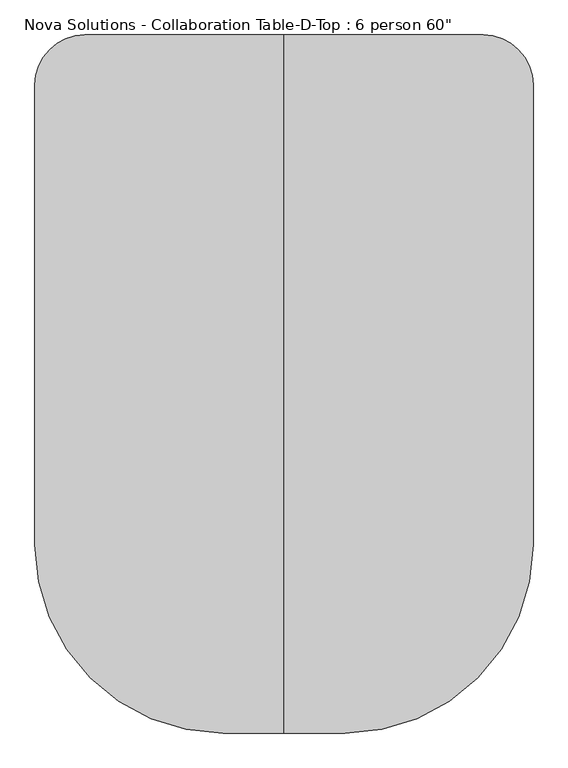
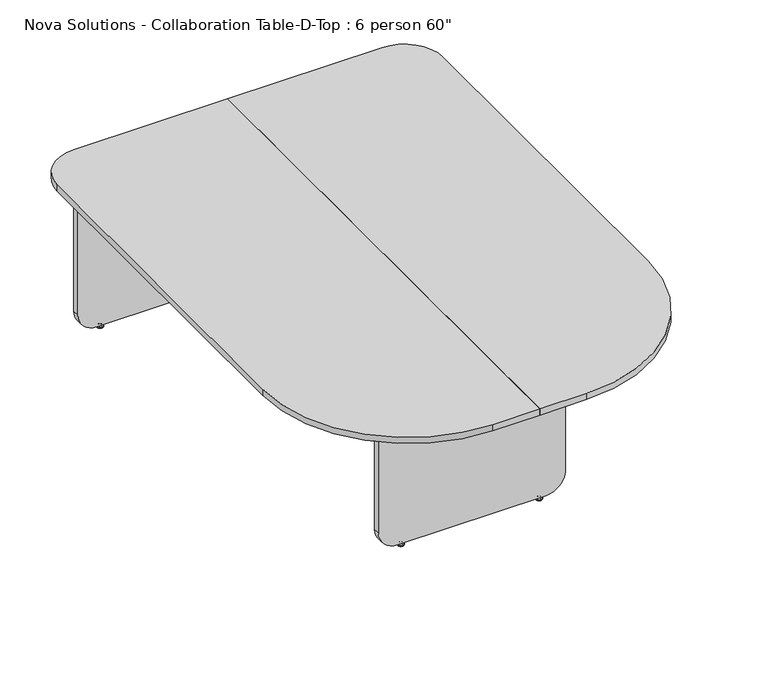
"""IFC4 building model written with IfcOpenShell, lengths in millimetres: furniture geometry."""

from ifc_helpers import new_model, si_unit, point, frame, frame_2d, origin, place, context, project, spatial, polyline, circle_curve, ellipse_curve, trimmed, segment, composite_curve, outline, extrude, source, transform, mapped, element, save
from ifc_brep_helpers import plane_surface, cylinder_surface, revolved_surface, advanced_brep


def furniture_2c49330a(model_context):
    return source(origin(), model_context, "Body", "SolidModel", [
        extrude(outline(polyline([(-136.57, 1038.2), (-136.57, -576.1), (-152.77, -576.1), (-152.77, 1038.2), (-136.57, 1038.2)])), frame((0.0, 0.0, 181.85), z_axis=(0.0, 0.0, 1.0), x_axis=(1.0, 0.0, 0.0)), (0.0, 0.0, 1.0), 553.0),
        extrude(outline(polyline([(136.57, 1038.2), (152.77, 1038.2), (152.77, -576.1), (136.57, -576.1), (136.57, 1038.2)])), frame((0.0, 0.0, 181.85), z_axis=(0.0, 0.0, 1.0), x_axis=(1.0, 0.0, 0.0)), (0.0, 0.0, 1.0), 553.0),
        advanced_brep(
        [(513.4578125, 1057.7276506, 11.1125), (513.4578125, 1044.3723494, 11.1125), (513.4578125, 1051.05, 11.1125), (513.4578125, 1057.7276506, 9.525), (513.4578125, 1044.3723494, 9.525), (513.4578125, 1062.9355135, 4.7748687), (513.4578125, 1039.1644865, 4.7748687), (513.4578125, 1063.7966506, 3.989419), (513.4578125, 1038.3033494, 3.989419), (513.4578125, 1063.7966506, 3.175), (513.4578125, 1038.3033494, 3.175), (513.4578125, 1062.9459119, 0.0), (513.4578125, 1039.1540881, 0.0), (513.4578125, 1051.05, 0.0)],
        [
            (0, 1, circle_curve(frame((513.4578125, 1051.05, 11.1125), z_axis=(0.0, 0.0, 1.0), x_axis=(0.0, -1.0, 0.0)), 6.6776506)),
            (1, 2),
            (2, 0),
            (1, 0, circle_curve(frame((513.4578125, 1051.05, 11.1125), z_axis=(0.0, 0.0, 1.0), x_axis=(0.0, -1.0, 0.0)), 6.6776506)),
            (3, 4, circle_curve(frame((513.4578125, 1051.05, 9.525), z_axis=(0.0, 0.0, 1.0), x_axis=(0.0, -1.0, 0.0)), 6.6776506)),
            (4, 1),
            (0, 3),
            (4, 3, circle_curve(frame((513.4578125, 1051.05, 9.525), z_axis=(0.0, 0.0, 1.0), x_axis=(0.0, -1.0, 0.0)), 6.6776506)),
            (5, 6, circle_curve(frame((513.4578125, 1051.05, 4.7748687), z_axis=(0.0, 0.0, 1.0), x_axis=(0.0, -1.0, 0.0)), 11.8855135)),
            (6, 4, circle_curve(frame((513.4578125, 1038.1179373, 11.1521822), z_axis=(1.0, 0.0, 0.0), x_axis=(0.0, 1.0, 0.0)), 6.462615)),
            (3, 5, circle_curve(frame((513.4578125, 1063.9820627, 11.1521822), z_axis=(1.0, 0.0, 0.0), x_axis=(0.0, -1.0, 0.0)), 6.462615)),
            (6, 5, circle_curve(frame((513.4578125, 1051.05, 4.7748687), z_axis=(0.0, 0.0, 1.0), x_axis=(0.0, -1.0, 0.0)), 11.8855135)),
            (7, 8, circle_curve(frame((513.4578125, 1051.05, 3.989419), z_axis=(0.0, 0.0, 1.0), x_axis=(0.0, -1.0, 0.0)), 12.7466506)),
            (8, 6, circle_curve(frame((513.4578125, 1039.3375368, 3.7203591), z_axis=(-1.0, 0.0, 0.0), x_axis=(0.0, 1.0, 0.0)), 1.0686145)),
            (5, 7, circle_curve(frame((513.4578125, 1062.7624632, 3.7203591), z_axis=(-1.0, 0.0, 0.0), x_axis=(0.0, -1.0, 0.0)), 1.0686145)),
            (8, 7, circle_curve(frame((513.4578125, 1051.05, 3.989419), z_axis=(0.0, 0.0, 1.0), x_axis=(0.0, -1.0, 0.0)), 12.7466506)),
            (9, 10, circle_curve(frame((513.4578125, 1051.05, 3.175), z_axis=(0.0, 0.0, 1.0), x_axis=(0.0, -1.0, 0.0)), 12.7466506)),
            (10, 8),
            (7, 9),
            (10, 9, circle_curve(frame((513.4578125, 1051.05, 3.175), z_axis=(0.0, 0.0, 1.0), x_axis=(0.0, -1.0, 0.0)), 12.7466506)),
            (11, 12, circle_curve(frame((513.4578125, 1051.05, 0.0), z_axis=(0.0, 0.0, 1.0), x_axis=(0.0, -1.0, 0.0)), 11.8959119)),
            (12, 10),
            (9, 11),
            (12, 11, circle_curve(frame((513.4578125, 1051.05, 0.0), z_axis=(0.0, 0.0, 1.0), x_axis=(0.0, -1.0, 0.0)), 11.8959119)),
            (13, 12),
            (11, 13),
        ],
        [
            plane_surface(frame((513.4578125, 1051.05, 11.1125), z_axis=(0.0, 0.0, 1.0), x_axis=(0.0, -1.0, 0.0))),
            cylinder_surface(frame((513.4578125, 1051.05, 43.2095994), z_axis=(0.0, 0.0, -1.0), x_axis=(0.0, -1.0, 0.0)), 6.6776506),
            revolved_surface(trimmed(ellipse_curve(frame((513.4578125, 1038.1179373, 11.1521822), z_axis=(-1.0, 0.0, 0.0), x_axis=(0.0, 1.0, 0.0)), 6.462615, 6.462615), [point((513.4578125, 1044.3723494, 9.525))], [point((513.4578125, 1039.1644865, 4.7748687))], True, "CARTESIAN"), (513.4578125, 1051.05, 43.2095994), (0.0, 0.0, -1.0)),
            revolved_surface(trimmed(ellipse_curve(frame((513.4578125, 1039.3375368, 3.7203591), z_axis=(1.0, 0.0, 0.0), x_axis=(0.0, 1.0, 0.0)), 1.0686145, 1.0686145), [point((513.4578125, 1039.1644865, 4.7748687))], [point((513.4578125, 1038.3033494, 3.989419))], True, "CARTESIAN"), (513.4578125, 1051.05, 43.2095994), (0.0, 0.0, -1.0)),
            cylinder_surface(frame((513.4578125, 1051.05, 43.2095994), z_axis=(0.0, 0.0, -1.0), x_axis=(0.0, -1.0, 0.0)), 12.7466506),
            revolved_surface(polyline([(513.4578125, 1038.3033494, 3.175), (513.4578125, 1039.1540881, 0.0)]), (513.4578125, 1051.05, 43.2095994), (0.0, 0.0, -1.0)),
            plane_surface(frame((513.4578125, 1051.05, 0.0), z_axis=(0.0, 0.0, -1.0), x_axis=(0.0, -1.0, 0.0))),
        ],
        [
            (0, [[1, 2, 3]]),
            (0, [[4, -3, -2]]),
            (1, [[5, 6, -1, 7]]),
            (1, [[8, -7, -4, -6]]),
            (2, [[9, 10, -5, 11]]),
            (2, [[12, -11, -8, -10]]),
            (3, [[13, 14, -9, 15]]),
            (3, [[16, -15, -12, -14]]),
            (4, [[17, 18, -13, 19]]),
            (4, [[20, -19, -16, -18]]),
            (5, [[21, 22, -17, 23]]),
            (5, [[24, -23, -20, -22]]),
            (6, [[25, -21, 26]]),
            (6, [[-26, -24, -25]]),
        ],
    ),
        advanced_brep(
        [(-513.4578125, 1057.7276506, 11.1125), (-513.4578125, 1044.3723494, 11.1125), (-513.4578125, 1051.05, 11.1125), (-513.4578125, 1057.7276506, 9.525), (-513.4578125, 1044.3723494, 9.525), (-513.4578125, 1062.9355135, 4.7748687), (-513.4578125, 1039.1644865, 4.7748687), (-513.4578125, 1063.7966506, 3.989419), (-513.4578125, 1038.3033494, 3.989419), (-513.4578125, 1063.7966506, 3.175), (-513.4578125, 1038.3033494, 3.175), (-513.4578125, 1062.9459119, 0.0), (-513.4578125, 1039.1540881, 0.0), (-513.4578125, 1051.05, 0.0)],
        [
            (0, 1, circle_curve(frame((-513.4578125, 1051.05, 11.1125), z_axis=(0.0, 0.0, 1.0), x_axis=(0.0, -1.0, 0.0)), 6.6776506)),
            (1, 2),
            (2, 0),
            (1, 0, circle_curve(frame((-513.4578125, 1051.05, 11.1125), z_axis=(0.0, 0.0, 1.0), x_axis=(0.0, -1.0, 0.0)), 6.6776506)),
            (3, 4, circle_curve(frame((-513.4578125, 1051.05, 9.525), z_axis=(0.0, 0.0, 1.0), x_axis=(0.0, -1.0, 0.0)), 6.6776506)),
            (4, 1),
            (0, 3),
            (4, 3, circle_curve(frame((-513.4578125, 1051.05, 9.525), z_axis=(0.0, 0.0, 1.0), x_axis=(0.0, -1.0, 0.0)), 6.6776506)),
            (5, 6, circle_curve(frame((-513.4578125, 1051.05, 4.7748687), z_axis=(0.0, 0.0, 1.0), x_axis=(0.0, -1.0, 0.0)), 11.8855135)),
            (6, 4, circle_curve(frame((-513.4578125, 1038.1179373, 11.1521822), z_axis=(1.0, 0.0, 0.0), x_axis=(0.0, 1.0, 0.0)), 6.462615)),
            (3, 5, circle_curve(frame((-513.4578125, 1063.9820627, 11.1521822), z_axis=(1.0, 0.0, 0.0), x_axis=(0.0, -1.0, 0.0)), 6.462615)),
            (6, 5, circle_curve(frame((-513.4578125, 1051.05, 4.7748687), z_axis=(0.0, 0.0, 1.0), x_axis=(0.0, -1.0, 0.0)), 11.8855135)),
            (7, 8, circle_curve(frame((-513.4578125, 1051.05, 3.989419), z_axis=(0.0, 0.0, 1.0), x_axis=(0.0, -1.0, 0.0)), 12.7466506)),
            (8, 6, circle_curve(frame((-513.4578125, 1039.3375368, 3.7203591), z_axis=(-1.0, 0.0, 0.0), x_axis=(0.0, 1.0, 0.0)), 1.0686145)),
            (5, 7, circle_curve(frame((-513.4578125, 1062.7624632, 3.7203591), z_axis=(-1.0, 0.0, 0.0), x_axis=(0.0, -1.0, 0.0)), 1.0686145)),
            (8, 7, circle_curve(frame((-513.4578125, 1051.05, 3.989419), z_axis=(0.0, 0.0, 1.0), x_axis=(0.0, -1.0, 0.0)), 12.7466506)),
            (9, 10, circle_curve(frame((-513.4578125, 1051.05, 3.175), z_axis=(0.0, 0.0, 1.0), x_axis=(0.0, -1.0, 0.0)), 12.7466506)),
            (10, 8),
            (7, 9),
            (10, 9, circle_curve(frame((-513.4578125, 1051.05, 3.175), z_axis=(0.0, 0.0, 1.0), x_axis=(0.0, -1.0, 0.0)), 12.7466506)),
            (11, 12, circle_curve(frame((-513.4578125, 1051.05, 0.0), z_axis=(0.0, 0.0, 1.0), x_axis=(0.0, -1.0, 0.0)), 11.8959119)),
            (12, 10),
            (9, 11),
            (12, 11, circle_curve(frame((-513.4578125, 1051.05, 0.0), z_axis=(0.0, 0.0, 1.0), x_axis=(0.0, -1.0, 0.0)), 11.8959119)),
            (13, 12),
            (11, 13),
        ],
        [
            plane_surface(frame((-513.4578125, 1051.05, 11.1125), z_axis=(0.0, 0.0, 1.0), x_axis=(0.0, -1.0, 0.0))),
            cylinder_surface(frame((-513.4578125, 1051.05, 43.2095994), z_axis=(0.0, 0.0, -1.0), x_axis=(0.0, -1.0, 0.0)), 6.6776506),
            revolved_surface(trimmed(ellipse_curve(frame((-513.4578125, 1038.1179373, 11.1521822), z_axis=(-1.0, 0.0, 0.0), x_axis=(0.0, 1.0, 0.0)), 6.462615, 6.462615), [point((-513.4578125, 1044.3723494, 9.525))], [point((-513.4578125, 1039.1644865, 4.7748687))], True, "CARTESIAN"), (-513.4578125, 1051.05, 43.2095994), (0.0, 0.0, -1.0)),
            revolved_surface(trimmed(ellipse_curve(frame((-513.4578125, 1039.3375368, 3.7203591), z_axis=(1.0, 0.0, 0.0), x_axis=(0.0, 1.0, 0.0)), 1.0686145, 1.0686145), [point((-513.4578125, 1039.1644865, 4.7748687))], [point((-513.4578125, 1038.3033494, 3.989419))], True, "CARTESIAN"), (-513.4578125, 1051.05, 43.2095994), (0.0, 0.0, -1.0)),
            cylinder_surface(frame((-513.4578125, 1051.05, 43.2095994), z_axis=(0.0, 0.0, -1.0), x_axis=(0.0, -1.0, 0.0)), 12.7466506),
            revolved_surface(polyline([(-513.4578125, 1038.3033494, 3.175), (-513.4578125, 1039.1540881, 0.0)]), (-513.4578125, 1051.05, 43.2095994), (0.0, 0.0, -1.0)),
            plane_surface(frame((-513.4578125, 1051.05, 0.0), z_axis=(0.0, 0.0, -1.0), x_axis=(0.0, -1.0, 0.0))),
        ],
        [
            (0, [[1, 2, 3]]),
            (0, [[4, -3, -2]]),
            (1, [[5, 6, -1, 7]]),
            (1, [[8, -7, -4, -6]]),
            (2, [[9, 10, -5, 11]]),
            (2, [[12, -11, -8, -10]]),
            (3, [[13, 14, -9, 15]]),
            (3, [[16, -15, -12, -14]]),
            (4, [[17, 18, -13, 19]]),
            (4, [[20, -19, -16, -18]]),
            (5, [[21, 22, -17, 23]]),
            (5, [[24, -23, -20, -22]]),
            (6, [[25, -21, 26]]),
            (6, [[-26, -24, -25]]),
        ],
    ),
        extrude(outline(composite_curve([segment(polyline([(734.85, 609.5), (734.85, -609.5), (90.15, -609.5)]), True, "CONTINUOUS"), segment(trimmed(circle_curve(frame_2d((90.15, -533.5)), 76.0), [point((90.15, -609.5))], [point((14.15, -533.5))], False, "CARTESIAN"), True, "CONTINUOUS"), segment(polyline([(14.15, -533.5), (14.15, 533.5)]), True, "CONTINUOUS"), segment(trimmed(circle_curve(frame_2d((90.15, 533.5)), 76.0), [point((14.15, 533.5))], [point((90.15, 609.5))], False, "CARTESIAN"), True, "CONTINUOUS"), segment(polyline([(90.15, 609.5), (734.85, 609.5)]), True, "CONTINUOUS")], self_intersect=False)), frame((0.0, 1038.2, 0.0), z_axis=(0.0, 1.0, 0.0), x_axis=(0.0, 0.0, 1.0)), (0.0, 0.0, 1.0), 25.7),
        advanced_brep(
        [(272.9578125, -582.2723494, 11.1125), (272.9578125, -595.6276506, 11.1125), (272.9578125, -588.95, 11.1125), (272.9578125, -582.2723494, 9.525), (272.9578125, -595.6276506, 9.525), (272.9578125, -577.0644865, 4.7748687), (272.9578125, -600.8355135, 4.7748687), (272.9578125, -576.2033494, 3.989419), (272.9578125, -601.6966506, 3.989419), (272.9578125, -576.2033494, 3.175), (272.9578125, -601.6966506, 3.175), (272.9578125, -577.0540881, 0.0), (272.9578125, -600.8459119, 0.0), (272.9578125, -588.95, 0.0)],
        [
            (0, 1, circle_curve(frame((272.9578125, -588.95, 11.1125), z_axis=(0.0, 0.0, 1.0), x_axis=(0.0, -1.0, 0.0)), 6.6776506)),
            (1, 2),
            (2, 0),
            (1, 0, circle_curve(frame((272.9578125, -588.95, 11.1125), z_axis=(0.0, 0.0, 1.0), x_axis=(0.0, -1.0, 0.0)), 6.6776506)),
            (3, 4, circle_curve(frame((272.9578125, -588.95, 9.525), z_axis=(0.0, 0.0, 1.0), x_axis=(0.0, -1.0, 0.0)), 6.6776506)),
            (4, 1),
            (0, 3),
            (4, 3, circle_curve(frame((272.9578125, -588.95, 9.525), z_axis=(0.0, 0.0, 1.0), x_axis=(0.0, -1.0, 0.0)), 6.6776506)),
            (5, 6, circle_curve(frame((272.9578125, -588.95, 4.7748687), z_axis=(0.0, 0.0, 1.0), x_axis=(0.0, -1.0, 0.0)), 11.8855135)),
            (6, 4, circle_curve(frame((272.9578125, -601.8820627, 11.1521822), z_axis=(1.0, 0.0, 0.0), x_axis=(0.0, 1.0, 0.0)), 6.462615)),
            (3, 5, circle_curve(frame((272.9578125, -576.0179373, 11.1521822), z_axis=(1.0, 0.0, 0.0), x_axis=(0.0, -1.0, 0.0)), 6.462615)),
            (6, 5, circle_curve(frame((272.9578125, -588.95, 4.7748687), z_axis=(0.0, 0.0, 1.0), x_axis=(0.0, -1.0, 0.0)), 11.8855135)),
            (7, 8, circle_curve(frame((272.9578125, -588.95, 3.989419), z_axis=(0.0, 0.0, 1.0), x_axis=(0.0, -1.0, 0.0)), 12.7466506)),
            (8, 6, circle_curve(frame((272.9578125, -600.6624632, 3.7203591), z_axis=(-1.0, 0.0, 0.0), x_axis=(0.0, 1.0, 0.0)), 1.0686145)),
            (5, 7, circle_curve(frame((272.9578125, -577.2375368, 3.7203591), z_axis=(-1.0, 0.0, 0.0), x_axis=(0.0, -1.0, 0.0)), 1.0686145)),
            (8, 7, circle_curve(frame((272.9578125, -588.95, 3.989419), z_axis=(0.0, 0.0, 1.0), x_axis=(0.0, -1.0, 0.0)), 12.7466506)),
            (9, 10, circle_curve(frame((272.9578125, -588.95, 3.175), z_axis=(0.0, 0.0, 1.0), x_axis=(0.0, -1.0, 0.0)), 12.7466506)),
            (10, 8),
            (7, 9),
            (10, 9, circle_curve(frame((272.9578125, -588.95, 3.175), z_axis=(0.0, 0.0, 1.0), x_axis=(0.0, -1.0, 0.0)), 12.7466506)),
            (11, 12, circle_curve(frame((272.9578125, -588.95, 0.0), z_axis=(0.0, 0.0, 1.0), x_axis=(0.0, -1.0, 0.0)), 11.8959119)),
            (12, 10),
            (9, 11),
            (12, 11, circle_curve(frame((272.9578125, -588.95, 0.0), z_axis=(0.0, 0.0, 1.0), x_axis=(0.0, -1.0, 0.0)), 11.8959119)),
            (13, 12),
            (11, 13),
        ],
        [
            plane_surface(frame((272.9578125, -588.95, 11.1125), z_axis=(0.0, 0.0, 1.0), x_axis=(0.0, -1.0, 0.0))),
            cylinder_surface(frame((272.9578125, -588.95, 43.2095994), z_axis=(0.0, 0.0, -1.0), x_axis=(0.0, -1.0, 0.0)), 6.6776506),
            revolved_surface(trimmed(ellipse_curve(frame((272.9578125, -601.8820627, 11.1521822), z_axis=(-1.0, 0.0, 0.0), x_axis=(0.0, 1.0, 0.0)), 6.462615, 6.462615), [point((272.9578125, -595.6276506, 9.525))], [point((272.9578125, -600.8355135, 4.7748687))], True, "CARTESIAN"), (272.9578125, -588.95, 43.2095994), (0.0, 0.0, -1.0)),
            revolved_surface(trimmed(ellipse_curve(frame((272.9578125, -600.6624632, 3.7203591), z_axis=(1.0, 0.0, 0.0), x_axis=(0.0, 1.0, 0.0)), 1.0686145, 1.0686145), [point((272.9578125, -600.8355135, 4.7748687))], [point((272.9578125, -601.6966506, 3.989419))], True, "CARTESIAN"), (272.9578125, -588.95, 43.2095994), (0.0, 0.0, -1.0)),
            cylinder_surface(frame((272.9578125, -588.95, 43.2095994), z_axis=(0.0, 0.0, -1.0), x_axis=(0.0, -1.0, 0.0)), 12.7466506),
            revolved_surface(polyline([(272.9578125, -601.6966506, 3.175), (272.9578125, -600.8459119, 0.0)]), (272.9578125, -588.95, 43.2095994), (0.0, 0.0, -1.0)),
            plane_surface(frame((272.9578125, -588.95, 0.0), z_axis=(0.0, 0.0, -1.0), x_axis=(0.0, -1.0, 0.0))),
        ],
        [
            (0, [[1, 2, 3]]),
            (0, [[4, -3, -2]]),
            (1, [[5, 6, -1, 7]]),
            (1, [[8, -7, -4, -6]]),
            (2, [[9, 10, -5, 11]]),
            (2, [[12, -11, -8, -10]]),
            (3, [[13, 14, -9, 15]]),
            (3, [[16, -15, -12, -14]]),
            (4, [[17, 18, -13, 19]]),
            (4, [[20, -19, -16, -18]]),
            (5, [[21, 22, -17, 23]]),
            (5, [[24, -23, -20, -22]]),
            (6, [[25, -21, 26]]),
            (6, [[-26, -24, -25]]),
        ],
    ),
        advanced_brep(
        [(-272.9578125, -582.2723494, 11.1125), (-272.9578125, -595.6276506, 11.1125), (-272.9578125, -588.95, 11.1125), (-272.9578125, -582.2723494, 9.525), (-272.9578125, -595.6276506, 9.525), (-272.9578125, -577.0644865, 4.7748687), (-272.9578125, -600.8355135, 4.7748687), (-272.9578125, -576.2033494, 3.989419), (-272.9578125, -601.6966506, 3.989419), (-272.9578125, -576.2033494, 3.175), (-272.9578125, -601.6966506, 3.175), (-272.9578125, -577.0540881, 0.0), (-272.9578125, -600.8459119, 0.0), (-272.9578125, -588.95, 0.0)],
        [
            (0, 1, circle_curve(frame((-272.9578125, -588.95, 11.1125), z_axis=(0.0, 0.0, 1.0), x_axis=(0.0, -1.0, 0.0)), 6.6776506)),
            (1, 2),
            (2, 0),
            (1, 0, circle_curve(frame((-272.9578125, -588.95, 11.1125), z_axis=(0.0, 0.0, 1.0), x_axis=(0.0, -1.0, 0.0)), 6.6776506)),
            (3, 4, circle_curve(frame((-272.9578125, -588.95, 9.525), z_axis=(0.0, 0.0, 1.0), x_axis=(0.0, -1.0, 0.0)), 6.6776506)),
            (4, 1),
            (0, 3),
            (4, 3, circle_curve(frame((-272.9578125, -588.95, 9.525), z_axis=(0.0, 0.0, 1.0), x_axis=(0.0, -1.0, 0.0)), 6.6776506)),
            (5, 6, circle_curve(frame((-272.9578125, -588.95, 4.7748687), z_axis=(0.0, 0.0, 1.0), x_axis=(0.0, -1.0, 0.0)), 11.8855135)),
            (6, 4, circle_curve(frame((-272.9578125, -601.8820627, 11.1521822), z_axis=(1.0, 0.0, 0.0), x_axis=(0.0, 1.0, 0.0)), 6.462615)),
            (3, 5, circle_curve(frame((-272.9578125, -576.0179373, 11.1521822), z_axis=(1.0, 0.0, 0.0), x_axis=(0.0, -1.0, 0.0)), 6.462615)),
            (6, 5, circle_curve(frame((-272.9578125, -588.95, 4.7748687), z_axis=(0.0, 0.0, 1.0), x_axis=(0.0, -1.0, 0.0)), 11.8855135)),
            (7, 8, circle_curve(frame((-272.9578125, -588.95, 3.989419), z_axis=(0.0, 0.0, 1.0), x_axis=(0.0, -1.0, 0.0)), 12.7466506)),
            (8, 6, circle_curve(frame((-272.9578125, -600.6624632, 3.7203591), z_axis=(-1.0, 0.0, 0.0), x_axis=(0.0, 1.0, 0.0)), 1.0686145)),
            (5, 7, circle_curve(frame((-272.9578125, -577.2375368, 3.7203591), z_axis=(-1.0, 0.0, 0.0), x_axis=(0.0, -1.0, 0.0)), 1.0686145)),
            (8, 7, circle_curve(frame((-272.9578125, -588.95, 3.989419), z_axis=(0.0, 0.0, 1.0), x_axis=(0.0, -1.0, 0.0)), 12.7466506)),
            (9, 10, circle_curve(frame((-272.9578125, -588.95, 3.175), z_axis=(0.0, 0.0, 1.0), x_axis=(0.0, -1.0, 0.0)), 12.7466506)),
            (10, 8),
            (7, 9),
            (10, 9, circle_curve(frame((-272.9578125, -588.95, 3.175), z_axis=(0.0, 0.0, 1.0), x_axis=(0.0, -1.0, 0.0)), 12.7466506)),
            (11, 12, circle_curve(frame((-272.9578125, -588.95, 0.0), z_axis=(0.0, 0.0, 1.0), x_axis=(0.0, -1.0, 0.0)), 11.8959119)),
            (12, 10),
            (9, 11),
            (12, 11, circle_curve(frame((-272.9578125, -588.95, 0.0), z_axis=(0.0, 0.0, 1.0), x_axis=(0.0, -1.0, 0.0)), 11.8959119)),
            (13, 12),
            (11, 13),
        ],
        [
            plane_surface(frame((-272.9578125, -588.95, 11.1125), z_axis=(0.0, 0.0, 1.0), x_axis=(0.0, -1.0, 0.0))),
            cylinder_surface(frame((-272.9578125, -588.95, 43.2095994), z_axis=(0.0, 0.0, -1.0), x_axis=(0.0, -1.0, 0.0)), 6.6776506),
            revolved_surface(trimmed(ellipse_curve(frame((-272.9578125, -601.8820627, 11.1521822), z_axis=(-1.0, 0.0, 0.0), x_axis=(0.0, 1.0, 0.0)), 6.462615, 6.462615), [point((-272.9578125, -595.6276506, 9.525))], [point((-272.9578125, -600.8355135, 4.7748687))], True, "CARTESIAN"), (-272.9578125, -588.95, 43.2095994), (0.0, 0.0, -1.0)),
            revolved_surface(trimmed(ellipse_curve(frame((-272.9578125, -600.6624632, 3.7203591), z_axis=(1.0, 0.0, 0.0), x_axis=(0.0, 1.0, 0.0)), 1.0686145, 1.0686145), [point((-272.9578125, -600.8355135, 4.7748687))], [point((-272.9578125, -601.6966506, 3.989419))], True, "CARTESIAN"), (-272.9578125, -588.95, 43.2095994), (0.0, 0.0, -1.0)),
            cylinder_surface(frame((-272.9578125, -588.95, 43.2095994), z_axis=(0.0, 0.0, -1.0), x_axis=(0.0, -1.0, 0.0)), 12.7466506),
            revolved_surface(polyline([(-272.9578125, -601.6966506, 3.175), (-272.9578125, -600.8459119, 0.0)]), (-272.9578125, -588.95, 43.2095994), (0.0, 0.0, -1.0)),
            plane_surface(frame((-272.9578125, -588.95, 0.0), z_axis=(0.0, 0.0, -1.0), x_axis=(0.0, -1.0, 0.0))),
        ],
        [
            (0, [[1, 2, 3]]),
            (0, [[4, -3, -2]]),
            (1, [[5, 6, -1, 7]]),
            (1, [[8, -7, -4, -6]]),
            (2, [[9, 10, -5, 11]]),
            (2, [[12, -11, -8, -10]]),
            (3, [[13, 14, -9, 15]]),
            (3, [[16, -15, -12, -14]]),
            (4, [[17, 18, -13, 19]]),
            (4, [[20, -19, -16, -18]]),
            (5, [[21, 22, -17, 23]]),
            (5, [[24, -23, -20, -22]]),
            (6, [[25, -21, 26]]),
            (6, [[-26, -24, -25]]),
        ],
    ),
        extrude(outline(composite_curve([segment(polyline([(734.85, 369.0), (734.85, -369.0), (90.15, -369.0)]), True, "CONTINUOUS"), segment(trimmed(circle_curve(frame_2d((90.15, -293.0)), 76.0), [point((90.15, -369.0))], [point((14.15, -293.0))], False, "CARTESIAN"), True, "CONTINUOUS"), segment(polyline([(14.15, -293.0), (14.15, 293.0)]), True, "CONTINUOUS"), segment(trimmed(circle_curve(frame_2d((90.15, 293.0)), 76.0), [point((14.15, 293.0))], [point((90.15, 369.0))], False, "CARTESIAN"), True, "CONTINUOUS"), segment(polyline([(90.15, 369.0), (734.85, 369.0)]), True, "CONTINUOUS")], self_intersect=False)), frame((0.0, -601.8, 0.0), z_axis=(0.0, 1.0, 0.0), x_axis=(0.0, 0.0, 1.0)), (0.0, 0.0, 1.0), 25.7),
        extrude(outline(composite_curve([segment(trimmed(circle_curve(frame_2d((187.0, -491.8)), 575.0), [point((762.0, -491.8))], [point((187.0, -1066.8))], False, "CARTESIAN"), True, "CONTINUOUS"), segment(polyline([(187.0, -1066.8), (0.0, -1066.8), (0.0, 1066.8), (609.6, 1066.8)]), True, "CONTINUOUS"), segment(trimmed(circle_curve(frame_2d((609.6, 914.4)), 152.4), [point((609.6, 1066.8))], [point((762.0, 914.4))], False, "CARTESIAN"), True, "CONTINUOUS"), segment(polyline([(762.0, 914.4), (762.0, -491.8)]), True, "CONTINUOUS")], self_intersect=False)), frame((0.0, 0.0, 734.85), z_axis=(0.0, 0.0, 1.0), x_axis=(1.0, 0.0, 0.0)), (0.0, 0.0, 1.0), 25.7),
        extrude(outline(composite_curve([segment(polyline([(0.0, 1066.8), (0.0, -1066.8), (-187.0, -1066.8)]), True, "CONTINUOUS"), segment(trimmed(circle_curve(frame_2d((-187.0, -491.8)), 575.0), [point((-187.0, -1066.8))], [point((-762.0, -491.8))], False, "CARTESIAN"), True, "CONTINUOUS"), segment(polyline([(-762.0, -491.8), (-762.0, 914.4)]), True, "CONTINUOUS"), segment(trimmed(circle_curve(frame_2d((-609.6, 914.4)), 152.4), [point((-762.0, 914.4))], [point((-609.6, 1066.8))], False, "CARTESIAN"), True, "CONTINUOUS"), segment(polyline([(-609.6, 1066.8), (0.0, 1066.8)]), True, "CONTINUOUS")], self_intersect=False)), frame((0.0, 0.0, 734.85), z_axis=(0.0, 0.0, 1.0), x_axis=(1.0, 0.0, 0.0)), (0.0, 0.0, 1.0), 25.7),
    ])


if __name__ == "__main__":
    model = new_model("IFC4")
    model_context = context("Model", 3, world=origin())
    ifc_project = project(units=[si_unit("LENGTHUNIT", "METRE", prefix="MILLI")], contexts=[model_context])
    site = spatial("IfcSite", under=ifc_project)
    building = spatial("IfcBuilding", under=site)
    placement = place(None, origin())
    furniture_shape = furniture_2c49330a(model_context)
    element("IfcFurniture", 1, ObjectType="Nova Solutions - Collaboration Table-D-Top : 6 person 60\"", at=placement, inside=building, context=model_context, shape_type="MappedRepresentation", body=[
        mapped(furniture_shape, transform((0.0, 0.0, 0.0), x_axis=(1.0, 0.0, 0.0), y_axis=(0.0, 1.0, 0.0), z_axis=(0.0, 0.0, 1.0))),
    ])
    save(model, "model.ifc")
